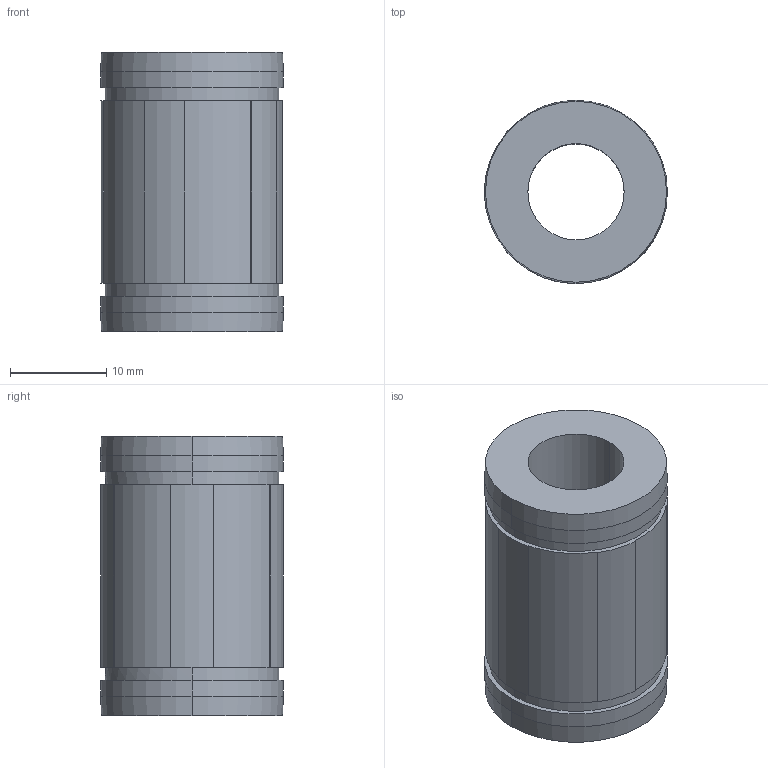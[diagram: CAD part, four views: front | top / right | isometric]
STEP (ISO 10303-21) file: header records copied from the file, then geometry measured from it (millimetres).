
FILE_DESCRIPTION((''),'2;1');
FILE_NAME('C:\Documents and Settings\ｿﾀﾀ蠑ｷ1\ｹﾙﾅﾁ ﾈｭｸ饅\ｺﾎﾇｰﾆﾄﾀﾏ\ﾁｦﾇｰ\LMES__UU\LMES10UU.stp','2005-06-15T14:03:57',('ｿﾀﾀ蠑ｷ1'),(''),'Autodesk Inventor 9','Autodesk Inventor 9','');
FILE_SCHEMA(('AUTOMOTIVE_DESIGN { 1 0 10303 214 1 1 1 1 }'));
Length unit declared in the file: millimetre
Products named in the file (1): LMES__
Bounding box: 19 x 19 x 29 mm (x, y, z)
Volume: 5783.7 mm3; surface area: 3147.1 mm2
Topology: 1 solids, 1 shells, 41 faces, 103 edges, 68 vertices
Faces by surface type: cylinder 21, plane 16, cone 4
Entity records: 1276 total; most frequent: DIRECTION 235, CARTESIAN_POINT 213, ORIENTED_EDGE 206, EDGE_CURVE 103, AXIS2_PLACEMENT_3D 90, VERTEX_POINT 68, VECTOR 55, LINE 55
